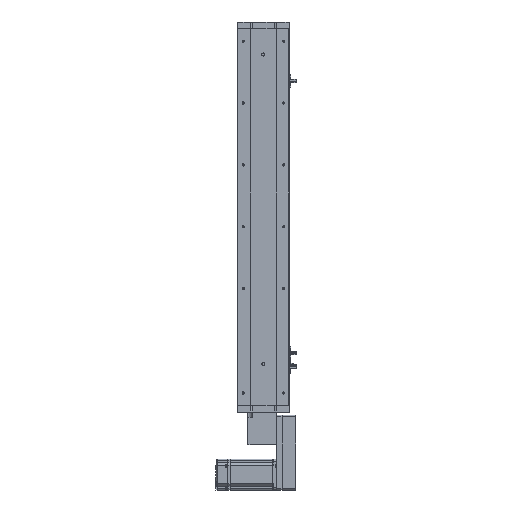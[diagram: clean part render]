
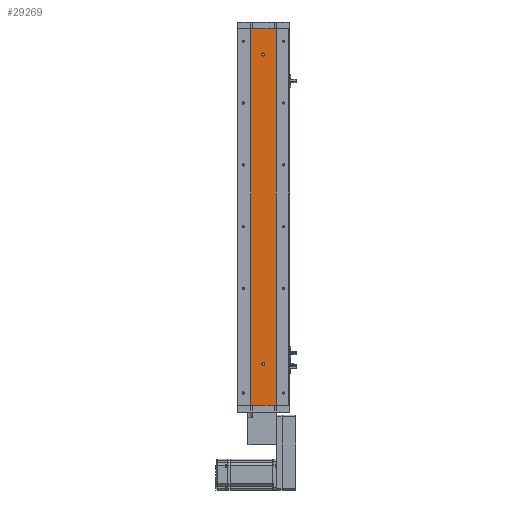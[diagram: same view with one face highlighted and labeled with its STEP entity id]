
A CAD part, left-side view. The second image highlights one B-rep face of the part: STEP entity #29269.
In plain terms, the highlighted planar face has unit normal (-1, 0, 0).
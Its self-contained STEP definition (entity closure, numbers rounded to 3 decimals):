
#164 = DIRECTION ( 'NONE',  ( 0., 0., -1. ) ) ;
#326 = ORIENTED_EDGE ( 'NONE', *, *, #48083, .T. ) ;
#1896 = VERTEX_POINT ( 'NONE', #7140 ) ;
#3032 = CARTESIAN_POINT ( 'NONE',  ( -18.926, 0., 677. ) ) ;
#4677 = DIRECTION ( 'NONE',  ( 0., 0., 1. ) ) ;
#5241 = LINE ( 'NONE', #42122, #30257 ) ;
#5584 = VERTEX_POINT ( 'NONE', #63985 ) ;
#5824 = FACE_BOUND ( 'NONE', #15815, .T. ) ;
#6127 = CARTESIAN_POINT ( 'NONE',  ( -18.926, 0., 680. ) ) ;
#6329 = ORIENTED_EDGE ( 'NONE', *, *, #33629, .F. ) ;
#6803 = VERTEX_POINT ( 'NONE', #3032 ) ;
#7140 = CARTESIAN_POINT ( 'NONE',  ( -18.926, -24.785, 0. ) ) ;
#7633 = AXIS2_PLACEMENT_3D ( 'NONE', #6127, #41130, #11153 ) ;
#8596 = VECTOR ( 'NONE', #29969, 1000. ) ;
#8863 = CARTESIAN_POINT ( 'NONE',  ( -18.926, -24.785, 730. ) ) ;
#9063 = ORIENTED_EDGE ( 'NONE', *, *, #64295, .F. ) ;
#9911 = ORIENTED_EDGE ( 'NONE', *, *, #63360, .F. ) ;
#10249 = EDGE_CURVE ( 'NONE', #10493, #5584, #46956, .T. ) ;
#10493 = VERTEX_POINT ( 'NONE', #23284 ) ;
#11153 = DIRECTION ( 'NONE',  ( 0., 0., 1. ) ) ;
#11205 = VERTEX_POINT ( 'NONE', #37087 ) ;
#12123 = EDGE_CURVE ( 'NONE', #11205, #50725, #45102, .T. ) ;
#12941 = AXIS2_PLACEMENT_3D ( 'NONE', #64623, #34663, #4677 ) ;
#14077 = VERTEX_POINT ( 'NONE', #49305 ) ;
#15002 = ORIENTED_EDGE ( 'NONE', *, *, #36543, .F. ) ;
#15815 = EDGE_LOOP ( 'NONE', ( #9911, #57531 ) ) ;
#17974 = CARTESIAN_POINT ( 'NONE',  ( -18.926, 24.785, 730. ) ) ;
#18505 = VECTOR ( 'NONE', #164, 1000. ) ;
#20702 = EDGE_LOOP ( 'NONE', ( #326, #9063, #34450, #35744 ) ) ;
#22945 = DIRECTION ( 'NONE',  ( 0., 0., -1. ) ) ;
#22967 = EDGE_LOOP ( 'NONE', ( #15002, #6329 ) ) ;
#23284 = CARTESIAN_POINT ( 'NONE',  ( -18.926, 0., 77. ) ) ;
#25580 = CIRCLE ( 'NONE', #12941, 3. ) ;
#26416 = EDGE_CURVE ( 'NONE', #11205, #44925, #5241, .T. ) ;
#26604 = DIRECTION ( 'NONE',  ( -1., 0., 0. ) ) ;
#27985 = CARTESIAN_POINT ( 'NONE',  ( -18.926, 0., 80. ) ) ;
#29269 = ADVANCED_FACE ( 'NONE', ( #5824, #42584, #57466 ), #62756, .F. ) ;
#29969 = DIRECTION ( 'NONE',  ( 0., -1., 0. ) ) ;
#30257 = VECTOR ( 'NONE', #37122, 1000. ) ;
#32054 = VECTOR ( 'NONE', #59401, 1000. ) ;
#33082 = DIRECTION ( 'NONE',  ( 0., 0., 1. ) ) ;
#33629 = EDGE_CURVE ( 'NONE', #6803, #14077, #25580, .T. ) ;
#33709 = LINE ( 'NONE', #59944, #8596 ) ;
#34450 = ORIENTED_EDGE ( 'NONE', *, *, #26416, .F. ) ;
#34663 = DIRECTION ( 'NONE',  ( -1., 0., 0. ) ) ;
#35744 = ORIENTED_EDGE ( 'NONE', *, *, #12123, .T. ) ;
#36197 = CIRCLE ( 'NONE', #7633, 3. ) ;
#36543 = EDGE_CURVE ( 'NONE', #14077, #6803, #36197, .T. ) ;
#37087 = CARTESIAN_POINT ( 'NONE',  ( -18.926, 24.785, 730. ) ) ;
#37122 = DIRECTION ( 'NONE',  ( 0., -1., 0. ) ) ;
#41130 = DIRECTION ( 'NONE',  ( -1., 0., 0. ) ) ;
#42122 = CARTESIAN_POINT ( 'NONE',  ( -18.926, 24.785, 730. ) ) ;
#42584 = FACE_BOUND ( 'NONE', #22967, .T. ) ;
#44925 = VERTEX_POINT ( 'NONE', #55524 ) ;
#45102 = LINE ( 'NONE', #60108, #18505 ) ;
#45338 = LINE ( 'NONE', #8863, #32054 ) ;
#46956 = CIRCLE ( 'NONE', #58545, 3. ) ;
#48083 = EDGE_CURVE ( 'NONE', #50725, #1896, #33709, .T. ) ;
#49305 = CARTESIAN_POINT ( 'NONE',  ( -18.926, 0., 683. ) ) ;
#50725 = VERTEX_POINT ( 'NONE', #56082 ) ;
#52953 = DIRECTION ( 'NONE',  ( 1., 0., 0. ) ) ;
#54910 = CIRCLE ( 'NONE', #60474, 3. ) ;
#55524 = CARTESIAN_POINT ( 'NONE',  ( -18.926, -24.785, 730. ) ) ;
#56082 = CARTESIAN_POINT ( 'NONE',  ( -18.926, 24.785, 0. ) ) ;
#56575 = CARTESIAN_POINT ( 'NONE',  ( -18.926, 0., 80. ) ) ;
#57466 = FACE_OUTER_BOUND ( 'NONE', #20702, .T. ) ;
#57531 = ORIENTED_EDGE ( 'NONE', *, *, #10249, .F. ) ;
#58545 = AXIS2_PLACEMENT_3D ( 'NONE', #56575, #26604, #61594 ) ;
#59401 = DIRECTION ( 'NONE',  ( 0., 0., -1. ) ) ;
#59944 = CARTESIAN_POINT ( 'NONE',  ( -18.926, 24.785, 0. ) ) ;
#60108 = CARTESIAN_POINT ( 'NONE',  ( -18.926, 24.785, 730. ) ) ;
#60335 = AXIS2_PLACEMENT_3D ( 'NONE', #17974, #52953, #22945 ) ;
#60474 = AXIS2_PLACEMENT_3D ( 'NONE', #27985, #62970, #33082 ) ;
#61594 = DIRECTION ( 'NONE',  ( 0., 0., 1. ) ) ;
#62756 = PLANE ( 'NONE',  #60335 ) ;
#62970 = DIRECTION ( 'NONE',  ( -1., 0., 0. ) ) ;
#63360 = EDGE_CURVE ( 'NONE', #5584, #10493, #54910, .T. ) ;
#63985 = CARTESIAN_POINT ( 'NONE',  ( -18.926, 0., 83. ) ) ;
#64295 = EDGE_CURVE ( 'NONE', #44925, #1896, #45338, .T. ) ;
#64623 = CARTESIAN_POINT ( 'NONE',  ( -18.926, 0., 680. ) ) ;
